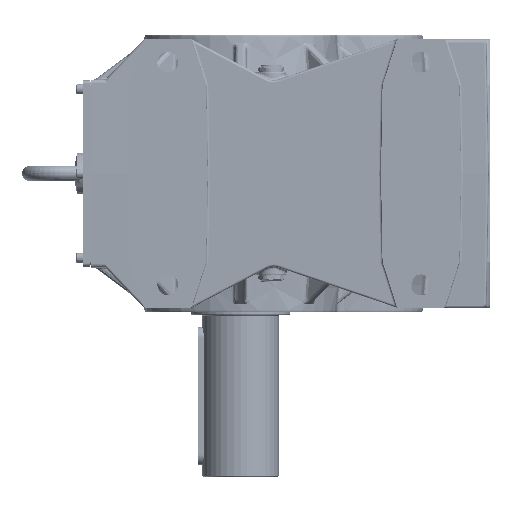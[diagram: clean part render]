
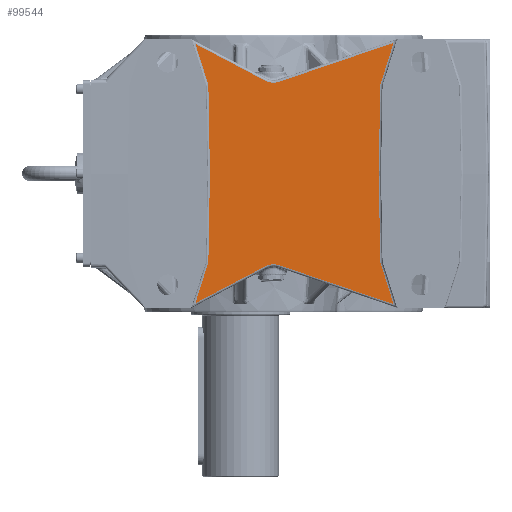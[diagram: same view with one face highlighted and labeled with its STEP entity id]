
A CAD part, left-side view. The second image highlights one B-rep face of the part: STEP entity #99544.
In plain terms, the highlighted planar face has unit normal (-1, 0, 0).
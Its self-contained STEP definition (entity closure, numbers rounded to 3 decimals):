
#71156=CARTESIAN_POINT('',(-225.0,39.992,0.));
#71157=VERTEX_POINT('',#71156);
#71158=CARTESIAN_POINT('',(-225.0,42.008,115.489));
#71159=VERTEX_POINT('',#71158);
#71160=CARTESIAN_POINT('',(-225.0,39.992,0.));
#71161=DIRECTION('',(0.0,0.017,1.));
#71162=VECTOR('',#71161,115.507);
#71163=LINE('',#71160,#71162);
#71164=EDGE_CURVE('',#71157,#71159,#71163,.T.);
#71605=CARTESIAN_POINT('',(-225.,-182.008,115.489));
#71606=VERTEX_POINT('',#71605);
#71614=CARTESIAN_POINT('',(-225.,-179.992,0.));
#71615=VERTEX_POINT('',#71614);
#71616=CARTESIAN_POINT('',(-225.,-182.008,115.489));
#71617=DIRECTION('',(0.0,0.017,-1.));
#71618=VECTOR('',#71617,115.507);
#71619=LINE('',#71616,#71618);
#71620=EDGE_CURVE('',#71606,#71615,#71619,.T.);
#99034=CARTESIAN_POINT('',(-225.,-199.348,170.247));
#99035=VERTEX_POINT('',#99034);
#99043=CARTESIAN_POINT('',(-225.,-199.348,170.247));
#99044=DIRECTION('',(0.0,0.302,-0.953));
#99045=VECTOR('',#99044,57.438);
#99046=LINE('',#99043,#99045);
#99047=EDGE_CURVE('',#99035,#71606,#99046,.T.);
#99178=CARTESIAN_POINT('',(-225.0,58.933,168.937));
#99179=VERTEX_POINT('',#99178);
#99212=CARTESIAN_POINT('',(-225.,-32.131,120.924));
#99213=VERTEX_POINT('',#99212);
#99214=CARTESIAN_POINT('',(-225.,58.933,168.937));
#99215=DIRECTION('',(0.,-0.885,-0.466));
#99216=VECTOR('',#99215,102.946);
#99217=LINE('',#99214,#99216);
#99218=EDGE_CURVE('',#99179,#99213,#99217,.T.);
#99286=CARTESIAN_POINT('',(-225.,-50.27,119.497));
#99287=VERTEX_POINT('',#99286);
#99288=CARTESIAN_POINT('',(-225.,-42.858,141.27));
#99289=DIRECTION('',(-1.0,0.,0.));
#99290=DIRECTION('',(0.,0.078,-0.997));
#99291=AXIS2_PLACEMENT_3D('',#99288,#99289,#99290);
#99292=CIRCLE('',#99291,23.);
#99293=EDGE_CURVE('',#99213,#99287,#99292,.T.);
#99320=CARTESIAN_POINT('',(-225.,-50.27,119.497));
#99321=DIRECTION('',(0.,-0.947,0.322));
#99322=VECTOR('',#99321,157.48);
#99323=LINE('',#99320,#99322);
#99324=EDGE_CURVE('',#99287,#99035,#99323,.T.);
#99434=CARTESIAN_POINT('',(-225.0,42.008,-115.489));
#99435=VERTEX_POINT('',#99434);
#99443=CARTESIAN_POINT('',(-225.0,42.008,-115.489));
#99444=DIRECTION('',(0.0,-0.017,1.));
#99445=VECTOR('',#99444,115.507);
#99446=LINE('',#99443,#99445);
#99447=EDGE_CURVE('',#99435,#71157,#99446,.T.);
#99466=CARTESIAN_POINT('',(-225.,-182.008,-115.489));
#99467=VERTEX_POINT('',#99466);
#99468=CARTESIAN_POINT('',(-225.,-179.992,0.));
#99469=DIRECTION('',(0.0,-0.017,-1.));
#99470=VECTOR('',#99469,115.507);
#99471=LINE('',#99468,#99470);
#99472=EDGE_CURVE('',#71615,#99467,#99471,.T.);
#99484=CARTESIAN_POINT('',(-225.,-320.,0.0));
#99485=DIRECTION('',(-1.0,0.0,0.0));
#99486=DIRECTION('',(0.0,0.0,1.0));
#99487=AXIS2_PLACEMENT_3D('',#99484,#99485,#99486);
#99488=PLANE('',#99487);
#99489=CARTESIAN_POINT('',(-225.,-199.348,-170.247));
#99490=VERTEX_POINT('',#99489);
#99491=CARTESIAN_POINT('',(-225.,-50.27,-119.497));
#99492=VERTEX_POINT('',#99491);
#99493=CARTESIAN_POINT('',(-225.,-199.348,-170.247));
#99494=DIRECTION('',(0.,0.947,0.322));
#99495=VECTOR('',#99494,157.48);
#99496=LINE('',#99493,#99495);
#99497=EDGE_CURVE('',#99490,#99492,#99496,.T.);
#99498=ORIENTED_EDGE('',*,*,#99497,.F.);
#99499=CARTESIAN_POINT('',(-225.,-182.008,-115.489));
#99500=DIRECTION('',(0.0,-0.302,-0.953));
#99501=VECTOR('',#99500,57.438);
#99502=LINE('',#99499,#99501);
#99503=EDGE_CURVE('',#99467,#99490,#99502,.T.);
#99504=ORIENTED_EDGE('',*,*,#99503,.F.);
#99505=ORIENTED_EDGE('',*,*,#99472,.F.);
#99506=ORIENTED_EDGE('',*,*,#71620,.F.);
#99507=ORIENTED_EDGE('',*,*,#99047,.F.);
#99508=ORIENTED_EDGE('',*,*,#99324,.F.);
#99509=ORIENTED_EDGE('',*,*,#99293,.F.);
#99510=ORIENTED_EDGE('',*,*,#99218,.F.);
#99511=CARTESIAN_POINT('',(-225.0,42.008,115.489));
#99512=DIRECTION('',(0.,0.302,0.953));
#99513=VECTOR('',#99512,56.064);
#99514=LINE('',#99511,#99513);
#99515=EDGE_CURVE('',#71159,#99179,#99514,.T.);
#99516=ORIENTED_EDGE('',*,*,#99515,.F.);
#99517=ORIENTED_EDGE('',*,*,#71164,.F.);
#99518=ORIENTED_EDGE('',*,*,#99447,.F.);
#99519=CARTESIAN_POINT('',(-225.0,58.933,-168.937));
#99520=VERTEX_POINT('',#99519);
#99521=CARTESIAN_POINT('',(-225.,58.933,-168.937));
#99522=DIRECTION('',(0.,-0.302,0.953));
#99523=VECTOR('',#99522,56.064);
#99524=LINE('',#99521,#99523);
#99525=EDGE_CURVE('',#99520,#99435,#99524,.T.);
#99526=ORIENTED_EDGE('',*,*,#99525,.F.);
#99527=CARTESIAN_POINT('',(-225.,-32.131,-120.924));
#99528=VERTEX_POINT('',#99527);
#99529=CARTESIAN_POINT('',(-225.,-32.131,-120.924));
#99530=DIRECTION('',(0.,0.885,-0.466));
#99531=VECTOR('',#99530,102.946);
#99532=LINE('',#99529,#99531);
#99533=EDGE_CURVE('',#99528,#99520,#99532,.T.);
#99534=ORIENTED_EDGE('',*,*,#99533,.F.);
#99535=CARTESIAN_POINT('',(-225.,-42.858,-141.27));
#99536=DIRECTION('',(-1.0,0.,0.));
#99537=DIRECTION('',(0.,0.078,0.997));
#99538=AXIS2_PLACEMENT_3D('',#99535,#99536,#99537);
#99539=CIRCLE('',#99538,23.);
#99540=EDGE_CURVE('',#99492,#99528,#99539,.T.);
#99541=ORIENTED_EDGE('',*,*,#99540,.F.);
#99542=EDGE_LOOP('',(#99498,#99504,#99505,#99506,#99507,#99508,#99509,#99510,#99516,#99517,#99518,#99526,#99534,#99541));
#99543=FACE_OUTER_BOUND('',#99542,.T.);
#99544=ADVANCED_FACE('',(#99543),#99488,.T.);
